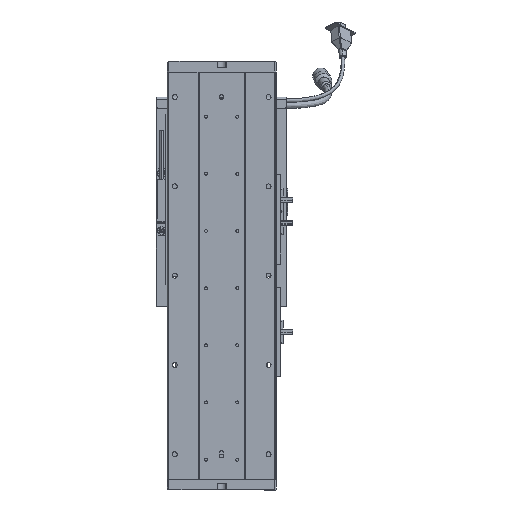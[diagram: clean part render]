
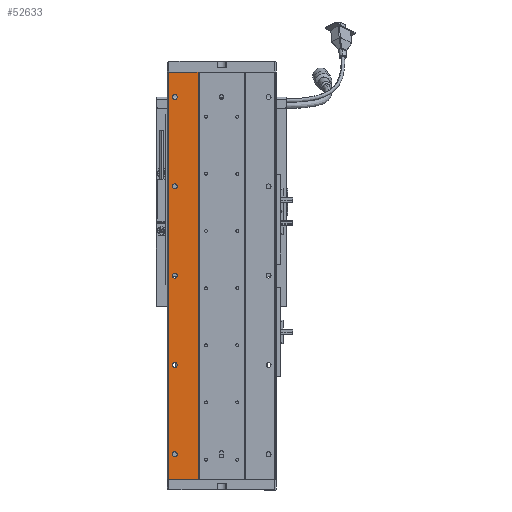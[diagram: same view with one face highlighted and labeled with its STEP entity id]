
A CAD part, front view. The second image highlights one B-rep face of the part: STEP entity #52633.
In plain terms, the highlighted planar face has unit normal (0, -1, 0).
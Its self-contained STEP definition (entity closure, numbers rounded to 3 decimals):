
#586 = DIRECTION ( 'NONE',  ( 0., 0., 1. ) ) ;
#947 = CARTESIAN_POINT ( 'NONE',  ( 102.625, 76.768, 125.25 ) ) ;
#1168 = CIRCLE ( 'NONE', #48621, 2.75 ) ;
#1629 = AXIS2_PLACEMENT_3D ( 'NONE', #20394, #14133, #36090 ) ;
#2261 = ORIENTED_EDGE ( 'NONE', *, *, #67336, .T. ) ;
#4319 = CARTESIAN_POINT ( 'NONE',  ( 102.625, 76.768, 328. ) ) ;
#4408 = AXIS2_PLACEMENT_3D ( 'NONE', #17284, #28890, #23551 ) ;
#5203 = DIRECTION ( 'NONE',  ( 0., 0., 1. ) ) ;
#5222 = EDGE_CURVE ( 'NONE', #16289, #17229, #14887, .T. ) ;
#5524 = DIRECTION ( 'NONE',  ( 0., 1., 0. ) ) ;
#5595 = CARTESIAN_POINT ( 'NONE',  ( 102.625, 76.768, 425.25 ) ) ;
#6068 = CARTESIAN_POINT ( 'NONE',  ( 128.625, 76.768, 456. ) ) ;
#6264 = EDGE_CURVE ( 'NONE', #54290, #64208, #7829, .T. ) ;
#6841 = VERTEX_POINT ( 'NONE', #18441 ) ;
#6974 = CIRCLE ( 'NONE', #54555, 2.75 ) ;
#7372 = CIRCLE ( 'NONE', #40050, 2.75 ) ;
#7378 = LINE ( 'NONE', #28214, #67829 ) ;
#7829 = CIRCLE ( 'NONE', #22616, 2.75 ) ;
#8671 = ORIENTED_EDGE ( 'NONE', *, *, #5222, .T. ) ;
#9258 = AXIS2_PLACEMENT_3D ( 'NONE', #31758, #10292, #5203 ) ;
#10292 = DIRECTION ( 'NONE',  ( 0., 1., 0. ) ) ;
#10310 = ORIENTED_EDGE ( 'NONE', *, *, #15594, .T. ) ;
#10668 = ORIENTED_EDGE ( 'NONE', *, *, #21820, .T. ) ;
#11177 = EDGE_CURVE ( 'NONE', #27453, #30035, #32620, .T. ) ;
#11323 = DIRECTION ( 'NONE',  ( 0., 0., 1. ) ) ;
#11333 = ORIENTED_EDGE ( 'NONE', *, *, #49049, .T. ) ;
#12365 = CARTESIAN_POINT ( 'NONE',  ( 128.625, 76.768, 456. ) ) ;
#12516 = DIRECTION ( 'NONE',  ( -1., 0., 0. ) ) ;
#12706 = PLANE ( 'NONE',  #4408 ) ;
#12810 = EDGE_CURVE ( 'NONE', #30035, #27453, #7372, .T. ) ;
#14133 = DIRECTION ( 'NONE',  ( 0., 1., 0. ) ) ;
#14436 = CARTESIAN_POINT ( 'NONE',  ( 102.625, 76.768, 30.75 ) ) ;
#14668 = DIRECTION ( 'NONE',  ( 0., 0., 1. ) ) ;
#14887 = CIRCLE ( 'NONE', #50303, 2.75 ) ;
#15162 = CARTESIAN_POINT ( 'NONE',  ( 102.625, 76.768, 228. ) ) ;
#15594 = EDGE_CURVE ( 'NONE', #24176, #41807, #21784, .T. ) ;
#15874 = FACE_BOUND ( 'NONE', #44846, .T. ) ;
#16289 = VERTEX_POINT ( 'NONE', #65925 ) ;
#16699 = EDGE_LOOP ( 'NONE', ( #10310, #51862 ) ) ;
#16906 = EDGE_CURVE ( 'NONE', #17229, #16289, #6974, .T. ) ;
#17130 = ORIENTED_EDGE ( 'NONE', *, *, #6264, .T. ) ;
#17229 = VERTEX_POINT ( 'NONE', #14436 ) ;
#17284 = CARTESIAN_POINT ( 'NONE',  ( 84.971, 76.768, 0. ) ) ;
#17305 = CARTESIAN_POINT ( 'NONE',  ( 102.625, 76.768, 428. ) ) ;
#18441 = CARTESIAN_POINT ( 'NONE',  ( 95.718, 76.768, 456. ) ) ;
#18449 = CARTESIAN_POINT ( 'NONE',  ( 102.625, 76.768, 128. ) ) ;
#18453 = FACE_BOUND ( 'NONE', #29434, .T. ) ;
#18485 = EDGE_CURVE ( 'NONE', #41807, #24176, #1168, .T. ) ;
#19897 = AXIS2_PLACEMENT_3D ( 'NONE', #18449, #64802, #52681 ) ;
#20210 = FACE_OUTER_BOUND ( 'NONE', #30261, .T. ) ;
#20394 = CARTESIAN_POINT ( 'NONE',  ( 102.625, 76.768, 128. ) ) ;
#20709 = DIRECTION ( 'NONE',  ( 0., 1., 0. ) ) ;
#21784 = CIRCLE ( 'NONE', #9258, 2.75 ) ;
#21820 = EDGE_CURVE ( 'NONE', #23275, #58388, #66791, .T. ) ;
#21878 = DIRECTION ( 'NONE',  ( 0., 0., 1. ) ) ;
#21966 = FACE_BOUND ( 'NONE', #64888, .T. ) ;
#22616 = AXIS2_PLACEMENT_3D ( 'NONE', #66035, #55376, #21878 ) ;
#23275 = VERTEX_POINT ( 'NONE', #947 ) ;
#23551 = DIRECTION ( 'NONE',  ( 0., 0., 1. ) ) ;
#24176 = VERTEX_POINT ( 'NONE', #54808 ) ;
#26210 = CARTESIAN_POINT ( 'NONE',  ( 102.625, 76.768, 325.25 ) ) ;
#26528 = LINE ( 'NONE', #65659, #48933 ) ;
#27317 = EDGE_CURVE ( 'NONE', #66711, #61464, #48060, .T. ) ;
#27453 = VERTEX_POINT ( 'NONE', #56796 ) ;
#28214 = CARTESIAN_POINT ( 'NONE',  ( 84.971, 76.768, 456. ) ) ;
#28510 = CARTESIAN_POINT ( 'NONE',  ( 128.625, 76.768, 0. ) ) ;
#28626 = ORIENTED_EDGE ( 'NONE', *, *, #65397, .F. ) ;
#28825 = FACE_BOUND ( 'NONE', #48746, .T. ) ;
#28890 = DIRECTION ( 'NONE',  ( 0., 1., 0. ) ) ;
#29434 = EDGE_LOOP ( 'NONE', ( #60857, #57761 ) ) ;
#30035 = VERTEX_POINT ( 'NONE', #5595 ) ;
#30261 = EDGE_LOOP ( 'NONE', ( #28626, #31916, #2261, #36444 ) ) ;
#31758 = CARTESIAN_POINT ( 'NONE',  ( 102.625, 76.768, 328. ) ) ;
#31916 = ORIENTED_EDGE ( 'NONE', *, *, #27317, .F. ) ;
#32012 = DIRECTION ( 'NONE',  ( 0., 1., 0. ) ) ;
#32620 = CIRCLE ( 'NONE', #42278, 2.75 ) ;
#34538 = CIRCLE ( 'NONE', #19897, 2.75 ) ;
#34663 = CARTESIAN_POINT ( 'NONE',  ( 102.625, 76.768, 130.75 ) ) ;
#36090 = DIRECTION ( 'NONE',  ( 0., 0., 1. ) ) ;
#36444 = ORIENTED_EDGE ( 'NONE', *, *, #65906, .F. ) ;
#37499 = ORIENTED_EDGE ( 'NONE', *, *, #16906, .T. ) ;
#37677 = CARTESIAN_POINT ( 'NONE',  ( 102.625, 76.768, 225.25 ) ) ;
#38653 = CIRCLE ( 'NONE', #59963, 2.75 ) ;
#38873 = CARTESIAN_POINT ( 'NONE',  ( 102.625, 76.768, 28. ) ) ;
#40050 = AXIS2_PLACEMENT_3D ( 'NONE', #71565, #60419, #43995 ) ;
#41807 = VERTEX_POINT ( 'NONE', #26210 ) ;
#42278 = AXIS2_PLACEMENT_3D ( 'NONE', #17305, #5524, #11323 ) ;
#43314 = CARTESIAN_POINT ( 'NONE',  ( 102.625, 76.768, 28. ) ) ;
#43470 = FACE_BOUND ( 'NONE', #16699, .T. ) ;
#43768 = VECTOR ( 'NONE', #55506, 1000. ) ;
#43995 = DIRECTION ( 'NONE',  ( 0., 0., 1. ) ) ;
#44429 = DIRECTION ( 'NONE',  ( 0., 1., 0. ) ) ;
#44846 = EDGE_LOOP ( 'NONE', ( #17130, #69643 ) ) ;
#45526 = VECTOR ( 'NONE', #64370, 1000. ) ;
#45656 = CARTESIAN_POINT ( 'NONE',  ( 102.625, 76.768, 230.75 ) ) ;
#48060 = LINE ( 'NONE', #6068, #43768 ) ;
#48253 = DIRECTION ( 'NONE',  ( -1., 0., 0. ) ) ;
#48621 = AXIS2_PLACEMENT_3D ( 'NONE', #4319, #69965, #14668 ) ;
#48716 = VERTEX_POINT ( 'NONE', #56732 ) ;
#48746 = EDGE_LOOP ( 'NONE', ( #37499, #8671 ) ) ;
#48933 = VECTOR ( 'NONE', #48253, 1000. ) ;
#49049 = EDGE_CURVE ( 'NONE', #58388, #23275, #34538, .T. ) ;
#50303 = AXIS2_PLACEMENT_3D ( 'NONE', #38873, #44429, #586 ) ;
#51862 = ORIENTED_EDGE ( 'NONE', *, *, #18485, .T. ) ;
#52633 = ADVANCED_FACE ( 'NONE', ( #18453, #43470, #28825, #21966, #15874, #20210 ), #12706, .F. ) ;
#52681 = DIRECTION ( 'NONE',  ( 0., 0., 1. ) ) ;
#52984 = CARTESIAN_POINT ( 'NONE',  ( 95.718, 76.768, 456. ) ) ;
#54290 = VERTEX_POINT ( 'NONE', #45656 ) ;
#54416 = DIRECTION ( 'NONE',  ( 0., 0., 1. ) ) ;
#54555 = AXIS2_PLACEMENT_3D ( 'NONE', #43314, #32012, #54416 ) ;
#54808 = CARTESIAN_POINT ( 'NONE',  ( 102.625, 76.768, 330.75 ) ) ;
#55376 = DIRECTION ( 'NONE',  ( 0., 1., 0. ) ) ;
#55506 = DIRECTION ( 'NONE',  ( 0., 0., -1. ) ) ;
#56732 = CARTESIAN_POINT ( 'NONE',  ( 95.718, 76.768, 0. ) ) ;
#56796 = CARTESIAN_POINT ( 'NONE',  ( 102.625, 76.768, 430.75 ) ) ;
#57761 = ORIENTED_EDGE ( 'NONE', *, *, #12810, .T. ) ;
#58388 = VERTEX_POINT ( 'NONE', #34663 ) ;
#59963 = AXIS2_PLACEMENT_3D ( 'NONE', #15162, #20709, #70926 ) ;
#60240 = LINE ( 'NONE', #52984, #45526 ) ;
#60419 = DIRECTION ( 'NONE',  ( 0., 1., 0. ) ) ;
#60857 = ORIENTED_EDGE ( 'NONE', *, *, #11177, .T. ) ;
#61464 = VERTEX_POINT ( 'NONE', #28510 ) ;
#64208 = VERTEX_POINT ( 'NONE', #37677 ) ;
#64370 = DIRECTION ( 'NONE',  ( 0., 0., 1. ) ) ;
#64720 = EDGE_CURVE ( 'NONE', #64208, #54290, #38653, .T. ) ;
#64802 = DIRECTION ( 'NONE',  ( 0., 1., 0. ) ) ;
#64888 = EDGE_LOOP ( 'NONE', ( #11333, #10668 ) ) ;
#65397 = EDGE_CURVE ( 'NONE', #61464, #48716, #26528, .T. ) ;
#65659 = CARTESIAN_POINT ( 'NONE',  ( 0., 76.768, 0. ) ) ;
#65906 = EDGE_CURVE ( 'NONE', #48716, #6841, #60240, .T. ) ;
#65925 = CARTESIAN_POINT ( 'NONE',  ( 102.625, 76.768, 25.25 ) ) ;
#66035 = CARTESIAN_POINT ( 'NONE',  ( 102.625, 76.768, 228. ) ) ;
#66711 = VERTEX_POINT ( 'NONE', #12365 ) ;
#66791 = CIRCLE ( 'NONE', #1629, 2.75 ) ;
#67336 = EDGE_CURVE ( 'NONE', #66711, #6841, #7378, .T. ) ;
#67829 = VECTOR ( 'NONE', #12516, 1000. ) ;
#69643 = ORIENTED_EDGE ( 'NONE', *, *, #64720, .T. ) ;
#69965 = DIRECTION ( 'NONE',  ( 0., 1., 0. ) ) ;
#70926 = DIRECTION ( 'NONE',  ( 0., 0., 1. ) ) ;
#71565 = CARTESIAN_POINT ( 'NONE',  ( 102.625, 76.768, 428. ) ) ;
